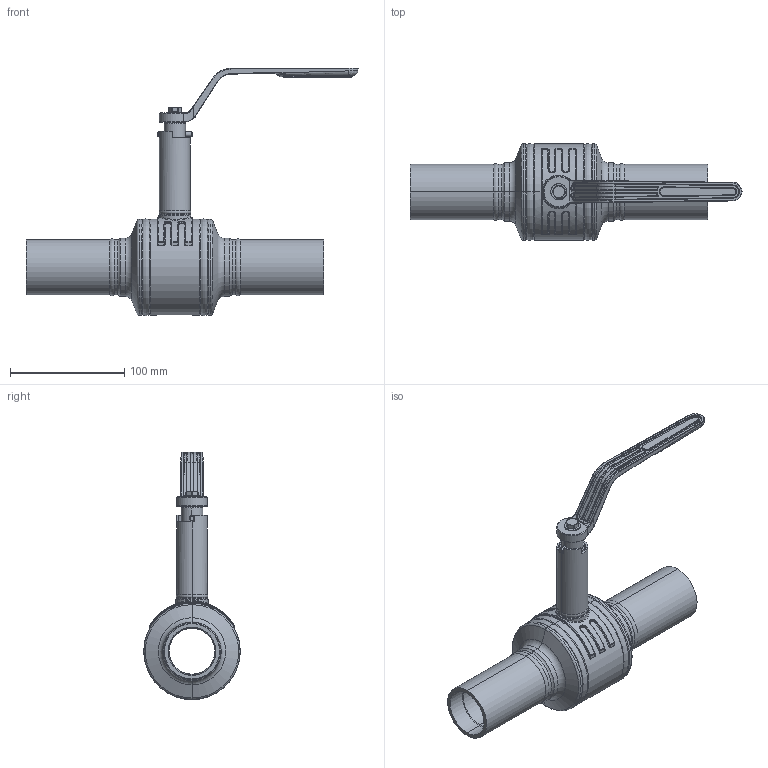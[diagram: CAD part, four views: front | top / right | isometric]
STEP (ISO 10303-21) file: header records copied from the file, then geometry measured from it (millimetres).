
FILE_DESCRIPTION((''),'2;1');
FILE_NAME('KHMO-S-V-H-040P040-VI_SW0001','2022-10-19T08:25:26',('jeitlers'),('KLINGER'),'CREO PARAMETRIC BY PTC INC, 2020184','CREO PARAMETRIC BY PTC INC, 2020184','');
FILE_SCHEMA(('AUTOMOTIVE_DESIGN { 1 0 10303 214 1 1 1 1 }'));
Length unit declared in the file: millimetre
Products named in the file (1): KHMO-S-V-H-040P040-VI_SW0001
Bounding box: 290 x 84.45 x 216.02 mm (x, y, z)
Volume: 400199.2 mm3; surface area: 158101.6 mm2
Topology: 1 solids, 1 shells, 759 faces, 1735 edges, 998 vertices
Faces by surface type: cylinder 245, torus 137, plane 134, bspline 130, cone 100, sphere 8, extrusion 5
Entity records: 40713 total; most frequent: CARTESIAN_POINT 23237, DIRECTION 3501, ORIENTED_EDGE 3466, EDGE_CURVE 1733, AXIS2_PLACEMENT_3D 1470, VERTEX_POINT 998, CIRCLE 833, EDGE_LOOP 801
